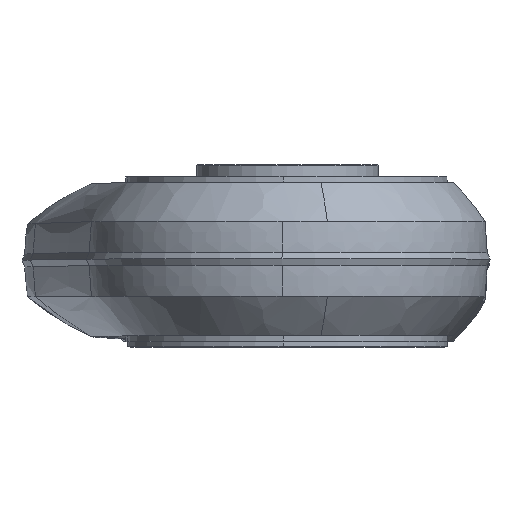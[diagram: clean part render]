
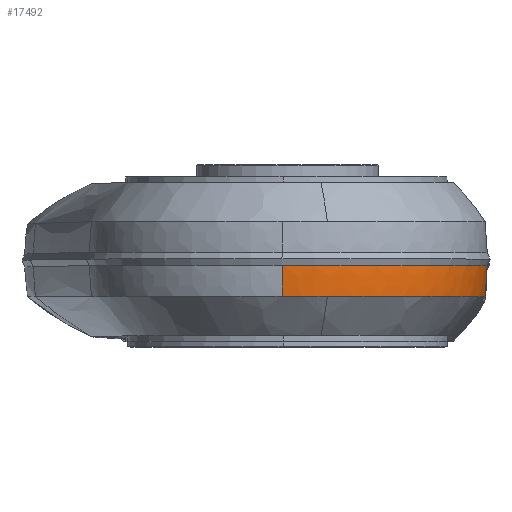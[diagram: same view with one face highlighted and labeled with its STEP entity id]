
A CAD part, top view. The second image highlights one B-rep face of the part: STEP entity #17492.
In plain terms, the highlighted toroidal (fillet/blend) face has major radius 414.315 mm and minor radius 500 mm.
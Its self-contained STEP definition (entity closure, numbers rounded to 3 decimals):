
#5 = DIRECTION ( 'NONE',  ( -1., 0., -0.027 ) ) ;
#985 = CARTESIAN_POINT ( 'NONE',  ( -212.268, -15.906, 2308.881 ) ) ;
#1051 = CARTESIAN_POINT ( 'NONE',  ( -173.183, -15.907, 2300.463 ) ) ;
#1140 = EDGE_LOOP ( 'NONE', ( #5438, #2236, #19347, #7785, #1684 ) ) ;
#1153 = CARTESIAN_POINT ( 'NONE',  ( -128.786, -15.903, 2246.322 ) ) ;
#1255 = CARTESIAN_POINT ( 'NONE',  ( -141.899, -15.905, 2274.031 ) ) ;
#1350 = CARTESIAN_POINT ( 'NONE',  ( -165.321, -15.908, 2296.044 ) ) ;
#1448 = CARTESIAN_POINT ( 'NONE',  ( -178.649, -15.905, 2302.893 ) ) ;
#1684 = ORIENTED_EDGE ( 'NONE', *, *, #19126, .T. ) ;
#1721 = AXIS2_PLACEMENT_3D ( 'NONE', #18585, #2829, #8836 ) ;
#2118 = B_SPLINE_CURVE_WITH_KNOTS ( 'NONE', 3,
 ( #6858, #13169, #5277, #10052, #11604, #5387, #11711, #2176, #1448, #1051, #15326, #6115, #1350, #7368, #6214, #2686, #10951, #7677, #15532, #7467, #13992, #13688, #18830, #5907, #1255, #3093, #19986, #16987, #15631, #20087, #20190, #8999, #18446, #1153, #20293, #7580, #9402, #16886, #12520, #12424, #9303, #4344, #18645, #13894, #4631, #17277, #5799, #4440, #13788, #12121, #10762, #2998, #10667, #4244 ),
 .UNSPECIFIED., .F., .F.,
 ( 4, 2, 2, 2, 2, 2, 2, 2, 2, 2, 2, 2, 2, 2, 2, 2, 2, 2, 2, 2, 2, 2, 2, 2, 2, 2, 4 ),
 ( 0.137, 0.14, 0.142, 0.146, 0.155, 0.164, 0.169, 0.173, 0.182, 0.191, 0.196, 0.198, 0.2, 0.209, 0.218, 0.223, 0.227, 0.236, 0.245, 0.25, 0.252, 0.254, 0.263, 0.272, 0.276, 0.279, 0.281 ),
 .UNSPECIFIED. ) ;
#2176 = CARTESIAN_POINT ( 'NONE',  ( -181.446, -15.905, 2303.962 ) ) ;
#2236 = ORIENTED_EDGE ( 'NONE', *, *, #19237, .T. ) ;
#2438 = B_SPLINE_CURVE_WITH_KNOTS ( 'NONE', 3,
 ( #985, #10601, #13624, #7303, #10294, #7201 ),
 .UNSPECIFIED., .F., .F.,
 ( 4, 2, 4 ),
 ( 0.118, 0.128, 0.137 ),
 .UNSPECIFIED. ) ;
#2686 = CARTESIAN_POINT ( 'NONE',  ( -157.9, -15.903, 2290.848 ) ) ;
#2829 = DIRECTION ( 'NONE',  ( 0., -1., 0. ) ) ;
#2998 = CARTESIAN_POINT ( 'NONE',  ( -130.717, -15.906, 2197.506 ) ) ;
#3052 = EDGE_CURVE ( 'NONE', #6952, #15792, #2118, .T. ) ;
#3093 = CARTESIAN_POINT ( 'NONE',  ( -139.723, -15.904, 2270.951 ) ) ;
#4244 = CARTESIAN_POINT ( 'NONE',  ( -131.229, -15.905, 2196.08 ) ) ;
#4344 = CARTESIAN_POINT ( 'NONE',  ( -126.09, -15.906, 2224.045 ) ) ;
#4440 = CARTESIAN_POINT ( 'NONE',  ( -128.939, -15.904, 2203.261 ) ) ;
#4631 = CARTESIAN_POINT ( 'NONE',  ( -126.466, -15.907, 2216.501 ) ) ;
#4640 = DIRECTION ( 'NONE',  ( -0.027, 0., 1. ) ) ;
#5178 = EDGE_CURVE ( 'NONE', #9889, #15792, #8169, .T. ) ;
#5277 = CARTESIAN_POINT ( 'NONE',  ( -191.594, -15.907, 2306.872 ) ) ;
#5387 = CARTESIAN_POINT ( 'NONE',  ( -187.187, -15.906, 2305.765 ) ) ;
#5438 = ORIENTED_EDGE ( 'NONE', *, *, #13192, .F. ) ;
#5799 = CARTESIAN_POINT ( 'NONE',  ( -127.852, -15.906, 2207.625 ) ) ;
#5870 = AXIS2_PLACEMENT_3D ( 'NONE', #14385, #5, #4640 ) ;
#5907 = CARTESIAN_POINT ( 'NONE',  ( -142.343, -15.905, 2274.642 ) ) ;
#6115 = CARTESIAN_POINT ( 'NONE',  ( -166.607, -15.909, 2296.836 ) ) ;
#6214 = CARTESIAN_POINT ( 'NONE',  ( -161.541, -15.906, 2293.522 ) ) ;
#6807 = CARTESIAN_POINT ( 'NONE',  ( -212.268, -15.906, 2308.881 ) ) ;
#6858 = CARTESIAN_POINT ( 'NONE',  ( -193.07, -15.907, 2307.186 ) ) ;
#6952 = VERTEX_POINT ( 'NONE', #9842 ) ;
#7201 = CARTESIAN_POINT ( 'NONE',  ( -193.07, -15.907, 2307.186 ) ) ;
#7303 = CARTESIAN_POINT ( 'NONE',  ( -199.427, -15.905, 2308.305 ) ) ;
#7368 = CARTESIAN_POINT ( 'NONE',  ( -162.783, -15.906, 2294.384 ) ) ;
#7467 = CARTESIAN_POINT ( 'NONE',  ( -146.088, -15.907, 2279.394 ) ) ;
#7580 = CARTESIAN_POINT ( 'NONE',  ( -126.973, -15.906, 2237.519 ) ) ;
#7677 = CARTESIAN_POINT ( 'NONE',  ( -151.169, -15.906, 2284.909 ) ) ;
#7785 = ORIENTED_EDGE ( 'NONE', *, *, #5178, .F. ) ;
#8169 = CIRCLE ( 'NONE', #18759, 500. ) ;
#8836 = DIRECTION ( 'NONE',  ( -0.027, 0., 1. ) ) ;
#8999 = CARTESIAN_POINT ( 'NONE',  ( -130.573, -15.906, 2252.107 ) ) ;
#9303 = CARTESIAN_POINT ( 'NONE',  ( -126.087, -15.906, 2225.557 ) ) ;
#9402 = CARTESIAN_POINT ( 'NONE',  ( -126.58, -15.907, 2234.554 ) ) ;
#9640 = DIRECTION ( 'NONE',  ( -0.345, 0., -0.939 ) ) ;
#9842 = CARTESIAN_POINT ( 'NONE',  ( -193.07, -15.907, 2307.186 ) ) ;
#9889 = VERTEX_POINT ( 'NONE', #15471 ) ;
#10052 = CARTESIAN_POINT ( 'NONE',  ( -190.12, -15.906, 2306.526 ) ) ;
#10294 = CARTESIAN_POINT ( 'NONE',  ( -196.241, -15.907, 2307.839 ) ) ;
#10601 = CARTESIAN_POINT ( 'NONE',  ( -209.04, -15.904, 2308.969 ) ) ;
#10656 = AXIS2_PLACEMENT_3D ( 'NONE', #16525, #16635, #19938 ) ;
#10667 = CARTESIAN_POINT ( 'NONE',  ( -130.967, -15.9, 2196.792 ) ) ;
#10762 = CARTESIAN_POINT ( 'NONE',  ( -130.235, -15.91, 2198.937 ) ) ;
#10951 = CARTESIAN_POINT ( 'NONE',  ( -155.584, -15.904, 2288.946 ) ) ;
#11302 = TOROIDAL_SURFACE ( 'NONE', #10656, -414.315, 500. ) ;
#11604 = CARTESIAN_POINT ( 'NONE',  ( -189.383, -15.906, 2306.343 ) ) ;
#11687 = CARTESIAN_POINT ( 'NONE',  ( -212.293, -2.785, 2309.815 ) ) ;
#11711 = CARTESIAN_POINT ( 'NONE',  ( -185.739, -15.905, 2305.342 ) ) ;
#12121 = CARTESIAN_POINT ( 'NONE',  ( -130.004, -15.908, 2199.655 ) ) ;
#12424 = CARTESIAN_POINT ( 'NONE',  ( -126.095, -15.906, 2226.312 ) ) ;
#12520 = CARTESIAN_POINT ( 'NONE',  ( -126.151, -15.907, 2228.571 ) ) ;
#13169 = CARTESIAN_POINT ( 'NONE',  ( -192.331, -15.907, 2307.034 ) ) ;
#13192 = EDGE_CURVE ( 'NONE', #16127, #19767, #16785, .T. ) ;
#13624 = CARTESIAN_POINT ( 'NONE',  ( -205.827, -15.903, 2308.87 ) ) ;
#13688 = CARTESIAN_POINT ( 'NONE',  ( -143.713, -15.906, 2276.457 ) ) ;
#13788 = CARTESIAN_POINT ( 'NONE',  ( -129.341, -15.904, 2201.814 ) ) ;
#13894 = CARTESIAN_POINT ( 'NONE',  ( -126.214, -15.907, 2219.5 ) ) ;
#13992 = CARTESIAN_POINT ( 'NONE',  ( -145.121, -15.906, 2278.237 ) ) ;
#14385 = CARTESIAN_POINT ( 'NONE',  ( -198.802, 26.168, 1810.837 ) ) ;
#15326 = CARTESIAN_POINT ( 'NONE',  ( -170.513, -15.909, 2299.101 ) ) ;
#15471 = CARTESIAN_POINT ( 'NONE',  ( -130.352, -2.785, 2195.758 ) ) ;
#15532 = CARTESIAN_POINT ( 'NONE',  ( -149.07, -15.907, 2282.774 ) ) ;
#15631 = CARTESIAN_POINT ( 'NONE',  ( -133.905, -15.909, 2260.493 ) ) ;
#15792 = VERTEX_POINT ( 'NONE', #19314 ) ;
#15965 = DIRECTION ( 'NONE',  ( 0., 1., 0. ) ) ;
#16127 = VERTEX_POINT ( 'NONE', #6807 ) ;
#16525 = CARTESIAN_POINT ( 'NONE',  ( -210., 26.168, 2225. ) ) ;
#16635 = DIRECTION ( 'NONE',  ( 0., 1., 0. ) ) ;
#16785 = CIRCLE ( 'NONE', #5870, 500. ) ;
#16886 = CARTESIAN_POINT ( 'NONE',  ( -126.228, -15.907, 2230.071 ) ) ;
#16960 = CIRCLE ( 'NONE', #1721, 84.846 ) ;
#16987 = CARTESIAN_POINT ( 'NONE',  ( -135.218, -15.908, 2263.181 ) ) ;
#17277 = CARTESIAN_POINT ( 'NONE',  ( -127.285, -15.906, 2210.564 ) ) ;
#17492 = ADVANCED_FACE ( 'NONE', ( #19830 ), #11302, .T. ) ;
#17515 = CARTESIAN_POINT ( 'NONE',  ( -598.93, 26.168, 2367.795 ) ) ;
#18446 = CARTESIAN_POINT ( 'NONE',  ( -130.095, -15.905, 2250.664 ) ) ;
#18585 = CARTESIAN_POINT ( 'NONE',  ( -210., -2.785, 2225. ) ) ;
#18645 = CARTESIAN_POINT ( 'NONE',  ( -126.102, -15.906, 2223.286 ) ) ;
#18759 = AXIS2_PLACEMENT_3D ( 'NONE', #17515, #9640, #15965 ) ;
#18830 = CARTESIAN_POINT ( 'NONE',  ( -143.25, -15.905, 2275.855 ) ) ;
#19126 = EDGE_CURVE ( 'NONE', #9889, #19767, #16960, .T. ) ;
#19237 = EDGE_CURVE ( 'NONE', #16127, #6952, #2438, .T. ) ;
#19314 = CARTESIAN_POINT ( 'NONE',  ( -131.229, -15.905, 2196.08 ) ) ;
#19347 = ORIENTED_EDGE ( 'NONE', *, *, #3052, .T. ) ;
#19767 = VERTEX_POINT ( 'NONE', #11687 ) ;
#19830 = FACE_OUTER_BOUND ( 'NONE', #1140, .T. ) ;
#19938 = DIRECTION ( 'NONE',  ( 0.027, 0., -1. ) ) ;
#19986 = CARTESIAN_POINT ( 'NONE',  ( -138.127, -15.905, 2268.41 ) ) ;
#20087 = CARTESIAN_POINT ( 'NONE',  ( -132.149, -15.908, 2256.347 ) ) ;
#20190 = CARTESIAN_POINT ( 'NONE',  ( -131.599, -15.907, 2254.947 ) ) ;
#20293 = CARTESIAN_POINT ( 'NONE',  ( -128.076, -15.903, 2243.403 ) ) ;
